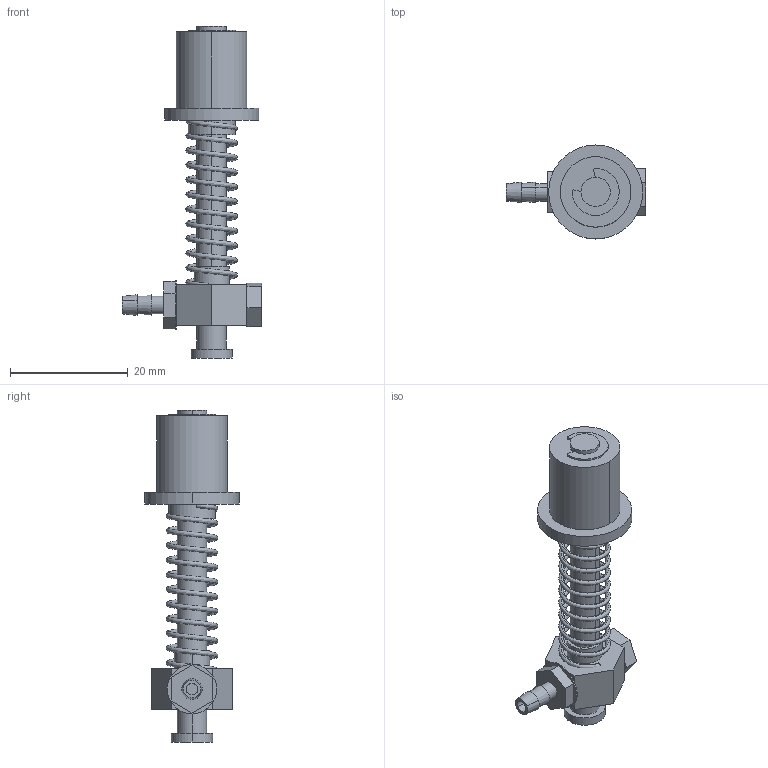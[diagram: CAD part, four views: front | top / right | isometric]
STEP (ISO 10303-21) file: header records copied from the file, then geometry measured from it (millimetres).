
FILE_DESCRIPTION (( 'STEP AP214' ), '1' );
FILE_NAME ('VFS-2012.STEP', '2019-11-16T00:56:33', ( '微软用户' ), ( '微软中国' ), 'SwSTEP 2.0', 'SolidWorks 2016', '' );
FILE_SCHEMA (( 'AUTOMOTIVE_DESIGN' ));
Length unit declared in the file: millimetre
Products named in the file (1): VFS-2012
Bounding box: 23.7 x 16 x 56.5 mm (x, y, z)
Volume: 3774.8 mm3; surface area: 4336.6 mm2
Topology: 8 solids, 8 shells, 131 faces, 305 edges, 202 vertices
Faces by surface type: cylinder 66, plane 54, bspline 7, cone 4
Entity records: 9974 total; most frequent: CARTESIAN_POINT 5528, ORIENTED_EDGE 610, DIRECTION 579, EDGE_CURVE 305, AXIS2_PLACEMENT_3D 217, VERTEX_POINT 202, EDGE_LOOP 153, LINE 145
